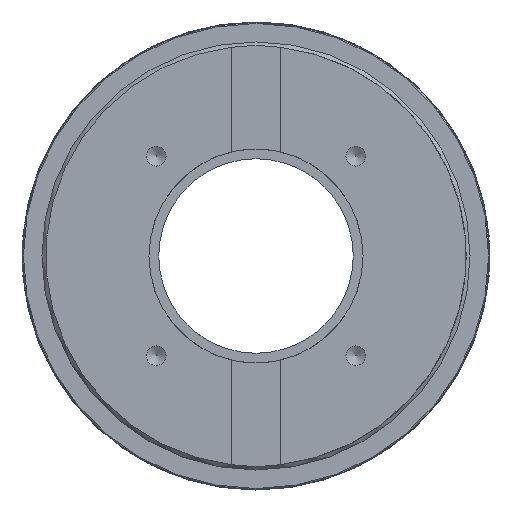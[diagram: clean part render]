
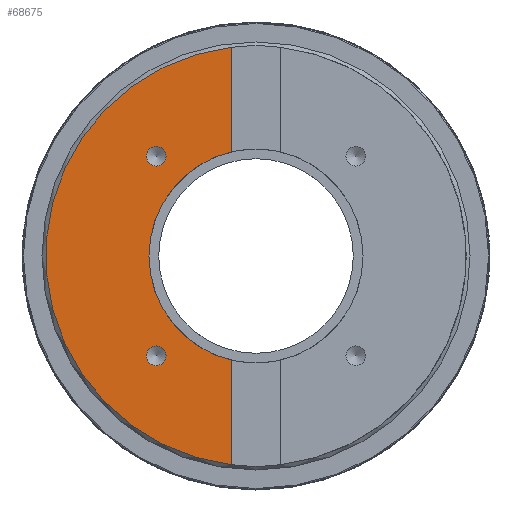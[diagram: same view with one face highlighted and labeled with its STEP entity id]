
A CAD part, left-side view. The second image highlights one B-rep face of the part: STEP entity #68675.
In plain terms, the highlighted planar face has unit normal (-1, 0, 0).
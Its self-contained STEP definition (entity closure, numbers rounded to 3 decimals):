
#164=PLANE('',#72498);
#893=LINE('',#107009,#5196);
#894=LINE('',#107013,#5197);
#5196=VECTOR('',#82863,10.);
#5197=VECTOR('',#82866,10.);
#9487=CIRCLE('',#72499,55.);
#9488=CIRCLE('',#72500,108.);
#9489=CIRCLE('',#72501,5.053);
#9490=CIRCLE('',#72502,5.053);
#15524=FACE_BOUND('',#19457,.T.);
#15525=FACE_BOUND('',#19458,.T.);
#15846=FACE_OUTER_BOUND('',#19456,.T.);
#19456=EDGE_LOOP('',(#41581,#41582,#41583,#41584));
#19457=EDGE_LOOP('',(#41585));
#19458=EDGE_LOOP('',(#41586));
#23427=VERTEX_POINT('',#107007);
#23428=VERTEX_POINT('',#107008);
#23429=VERTEX_POINT('',#107010);
#23430=VERTEX_POINT('',#107012);
#23431=VERTEX_POINT('',#107015);
#23432=VERTEX_POINT('',#107017);
#30573=EDGE_CURVE('',#23427,#23428,#893,.T.);
#30574=EDGE_CURVE('',#23429,#23428,#9487,.T.);
#30575=EDGE_CURVE('',#23429,#23430,#894,.T.);
#30576=EDGE_CURVE('',#23430,#23427,#9488,.T.);
#30577=EDGE_CURVE('',#23431,#23431,#9489,.T.);
#30578=EDGE_CURVE('',#23432,#23432,#9490,.T.);
#41581=ORIENTED_EDGE('',*,*,#30573,.T.);
#41582=ORIENTED_EDGE('',*,*,#30574,.F.);
#41583=ORIENTED_EDGE('',*,*,#30575,.T.);
#41584=ORIENTED_EDGE('',*,*,#30576,.T.);
#41585=ORIENTED_EDGE('',*,*,#30577,.T.);
#41586=ORIENTED_EDGE('',*,*,#30578,.T.);
#68675=ADVANCED_FACE('',(#15846,#15524,#15525),#164,.T.);
#72498=AXIS2_PLACEMENT_3D('',#107006,#82861,#82862);
#72499=AXIS2_PLACEMENT_3D('',#107011,#82864,#82865);
#72500=AXIS2_PLACEMENT_3D('',#107014,#82867,#82868);
#72501=AXIS2_PLACEMENT_3D('',#107016,#82869,#82870);
#72502=AXIS2_PLACEMENT_3D('',#107018,#82871,#82872);
#82861=DIRECTION('center_axis',(-1.,0.,0.));
#82862=DIRECTION('ref_axis',(0.,0.,
1.));
#82863=DIRECTION('',(0.,0.,1.));
#82864=DIRECTION('center_axis',(-1.,0.,0.));
#82865=DIRECTION('ref_axis',(0.,0.,
1.));
#82866=DIRECTION('',(0.,0.,1.));
#82867=DIRECTION('center_axis',(-1.,0.,0.));
#82868=DIRECTION('ref_axis',(0.,0.,
1.));
#82869=DIRECTION('center_axis',(1.,0.,0.));
#82870=DIRECTION('ref_axis',(0.,0.,
-1.));
#82871=DIRECTION('center_axis',(1.,0.,0.));
#82872=DIRECTION('ref_axis',(0.,1.,0.));
#107006=CARTESIAN_POINT('Origin',(-23.,55.,0.));
#107007=CARTESIAN_POINT('',(-23.,12.5,-107.274));
#107008=CARTESIAN_POINT('',(-23.,12.5,-53.561));
#107009=CARTESIAN_POINT('',(-23.,12.5,-57.471));
#107010=CARTESIAN_POINT('',(-23.,12.5,53.561));
#107011=CARTESIAN_POINT('Origin',(-23.,0.,0.));
#107012=CARTESIAN_POINT('',(-23.,12.5,107.274));
#107013=CARTESIAN_POINT('',(-23.,12.5,-57.471));
#107014=CARTESIAN_POINT('Origin',(-23.,0.,0.));
#107015=CARTESIAN_POINT('',(-23.,51.265,-46.212));
#107016=CARTESIAN_POINT('Origin',(-23.,51.265,-51.265));
#107017=CARTESIAN_POINT('',(-23.,46.212,51.265));
#107018=CARTESIAN_POINT('Origin',(-23.,51.265,51.265));
